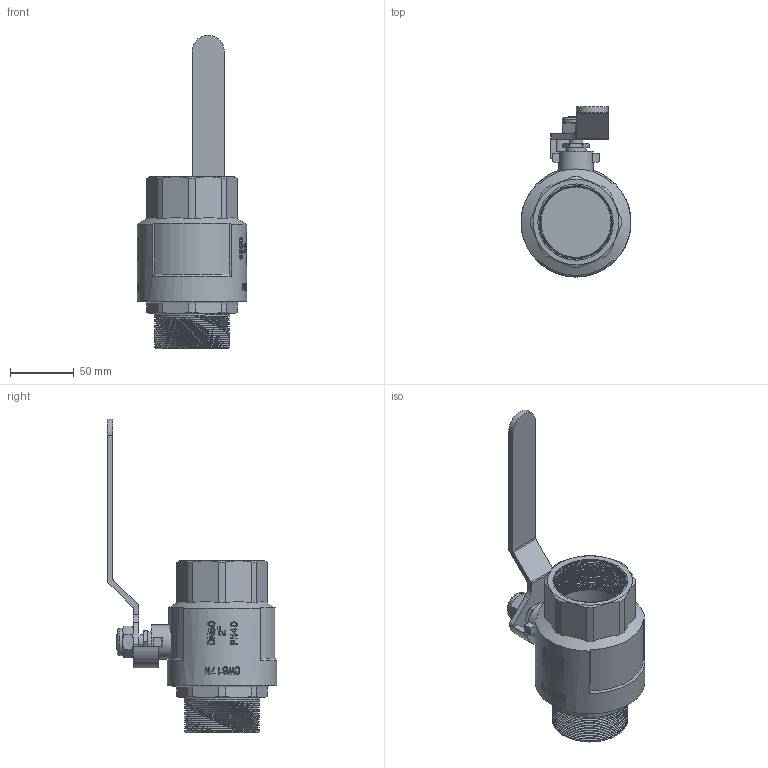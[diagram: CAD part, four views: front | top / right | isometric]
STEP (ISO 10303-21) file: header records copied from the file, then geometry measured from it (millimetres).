
FILE_DESCRIPTION(/* description */ (''),/* implementation_level */ '2;1');
FILE_NAME(/* name */ 'F:\Артём\00000\Работа удаленка\0\B\VT.315.N.09.stp',/* time_stamp */ '2021-02-03T16:01:40+03:00',/* author */ ('almis'),/* organization */ (''),/* preprocessor_version */ 'ST-DEVELOPER v18',/* originating_system */ 'Autodesk Inventor 2020',/* authorisation */ '');
FILE_SCHEMA (('AUTOMOTIVE_DESIGN { 1 0 10303 214 3 1 1 }'));
Length unit declared in the file: millimetre
Products named in the file (1): VT.314_ВВ_2
Bounding box: 86.2 x 133.19 x 246 mm (x, y, z)
Volume: 310094.4 mm3; surface area: 89360.4 mm2
Topology: 1 solids, 1 shells, 546 faces, 1466 edges, 978 vertices
Faces by surface type: plane 214, bspline 197, cylinder 122, cone 11, torus 2
Full cylindrical faces by diameter (mm): 10.969 x1, 16.188 x1, 21.454 x1, 27 x1, 55 x1, 56.8 x19, 59.315 x16, 86 x1
Entity records: 30163 total; most frequent: CARTESIAN_POINT 17255, ORIENTED_EDGE 2932, DIRECTION 1903, EDGE_CURVE 1466, VERTEX_POINT 978, LINE 669, VECTOR 669, AXIS2_PLACEMENT_3D 617
